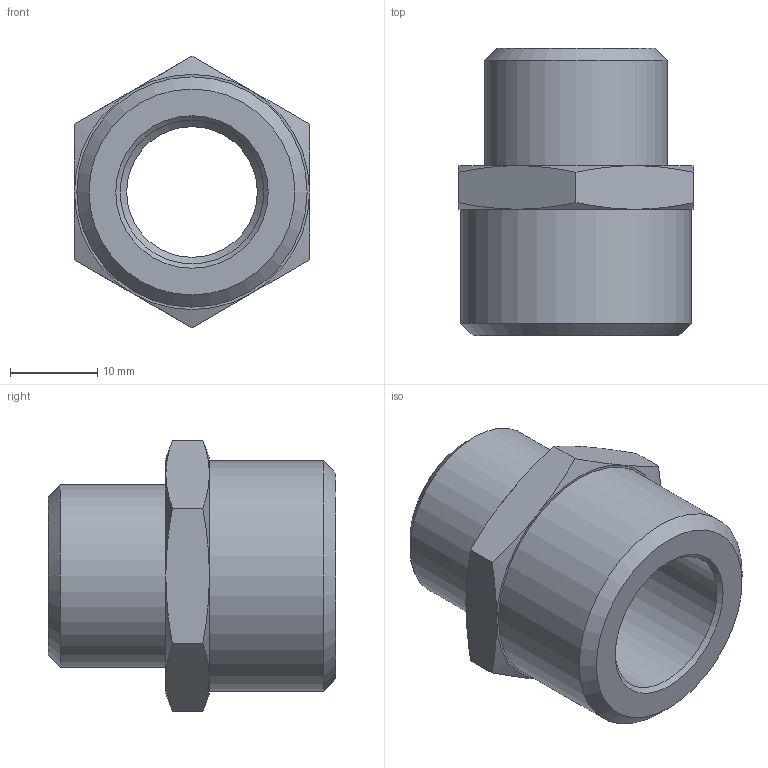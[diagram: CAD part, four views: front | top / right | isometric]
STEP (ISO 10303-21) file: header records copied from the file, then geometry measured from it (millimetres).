
FILE_DESCRIPTION(('STEP AP203'), '1');
FILE_NAME('ÂÐ.753137.061 - VTi.580.I.0504', '', ('UNSPECIFIED'), ('UNSPECIFIED'), 'C3D Converter', 'C3D Toolkit', '');
FILE_SCHEMA(('CONFIG_CONTROL_DESIGN'));
Length unit declared in the file: millimetre
Products named in the file (1): ВР.753137.061
Bounding box: 27 x 33 x 31.18 mm (x, y, z)
Volume: 9192.7 mm3; surface area: 4879.1 mm2
Topology: 1 solids, 1 shells, 28 faces, 68 edges, 46 vertices
Faces by surface type: cone 14, plane 10, cylinder 4
Full cylindrical faces by diameter (mm): 15 x1, 16.5 x1, 20.955 x1, 26.441 x1
Entity records: 1997 total; most frequent: CARTESIAN_POINT 1333, DIRECTION 124, ORIENTED_EDGE 98, AXIS2_PLACEMENT_3D 59, EDGE_CURVE 49, EDGE_LOOP 41, VERTEX_POINT 34, CIRCLE 30
